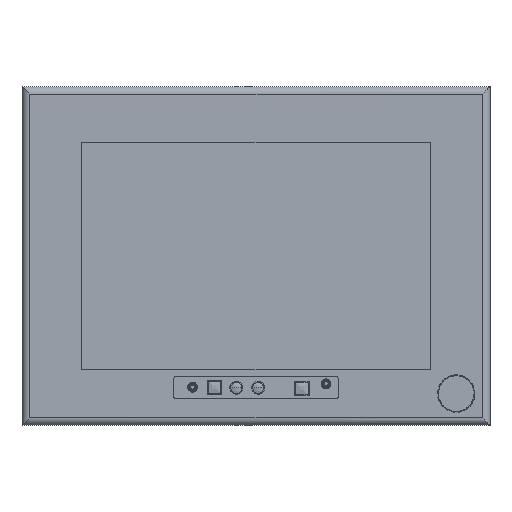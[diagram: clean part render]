
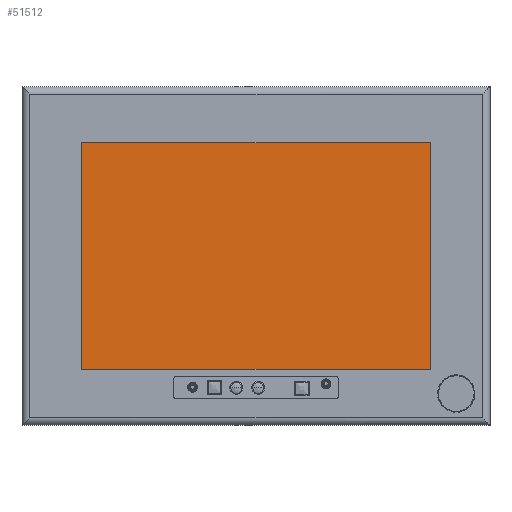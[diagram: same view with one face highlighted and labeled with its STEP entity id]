
A CAD part, top view. The second image highlights one B-rep face of the part: STEP entity #51512.
In plain terms, the highlighted planar face has unit normal (0, 0, 1).
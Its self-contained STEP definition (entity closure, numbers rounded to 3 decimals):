
#6774=DIRECTION('',(-1.,0.,0.));
#6775=VECTOR('',#6774,318.331);
#6776=CARTESIAN_POINT('',(159.166,103.507,0.));
#6777=LINE('',#6776,#6775);
#6778=DIRECTION('',(0.,1.,0.));
#6779=VECTOR('',#6778,207.015);
#6780=CARTESIAN_POINT('',(159.166,-103.507,0.));
#6781=LINE('',#6780,#6779);
#6782=DIRECTION('',(1.,0.,0.));
#6783=VECTOR('',#6782,318.331);
#6784=CARTESIAN_POINT('',(-159.166,-103.507,0.));
#6785=LINE('',#6784,#6783);
#6786=DIRECTION('',(0.,-1.,0.));
#6787=VECTOR('',#6786,207.015);
#6788=CARTESIAN_POINT('',(-159.166,103.507,0.));
#6789=LINE('',#6788,#6787);
#34112=CARTESIAN_POINT('',(159.166,-103.507,0.));
#34113=VERTEX_POINT('',#34112);
#34114=CARTESIAN_POINT('',(-159.166,103.507,0.));
#34115=VERTEX_POINT('',#34114);
#34116=CARTESIAN_POINT('',(159.166,103.507,0.));
#34117=VERTEX_POINT('',#34116);
#34118=CARTESIAN_POINT('',(-159.166,-103.507,0.));
#34119=VERTEX_POINT('',#34118);
#51501=CARTESIAN_POINT('',(-214.,155.,0.));
#51502=DIRECTION('',(0.,0.,-1.));
#51503=DIRECTION('',(-1.,0.,0.));
#51504=AXIS2_PLACEMENT_3D('',#51501,#51502,#51503);
#51505=PLANE('',#51504);
#51506=ORIENTED_EDGE('',*,*,#51483,.F.);
#51507=ORIENTED_EDGE('',*,*,#51469,.F.);
#51508=ORIENTED_EDGE('',*,*,#51455,.F.);
#51509=ORIENTED_EDGE('',*,*,#51496,.F.);
#51510=EDGE_LOOP('',(#51506,#51507,#51508,#51509));
#51511=FACE_OUTER_BOUND('',#51510,.F.);
#51512=ADVANCED_FACE('',(#51511),#51505,.F.);
#51455=EDGE_CURVE('',#34119,#34113,#6785,.T.);
#51469=EDGE_CURVE('',#34113,#34117,#6781,.T.);
#51483=EDGE_CURVE('',#34117,#34115,#6777,.T.);
#51496=EDGE_CURVE('',#34115,#34119,#6789,.T.);
